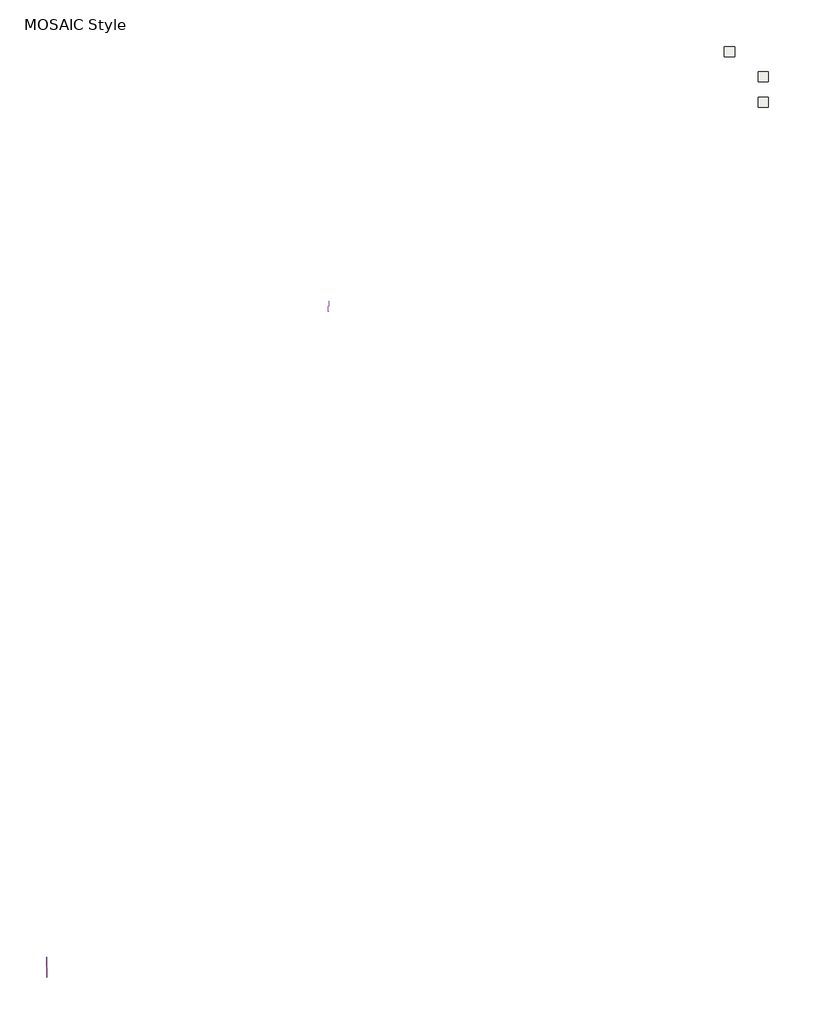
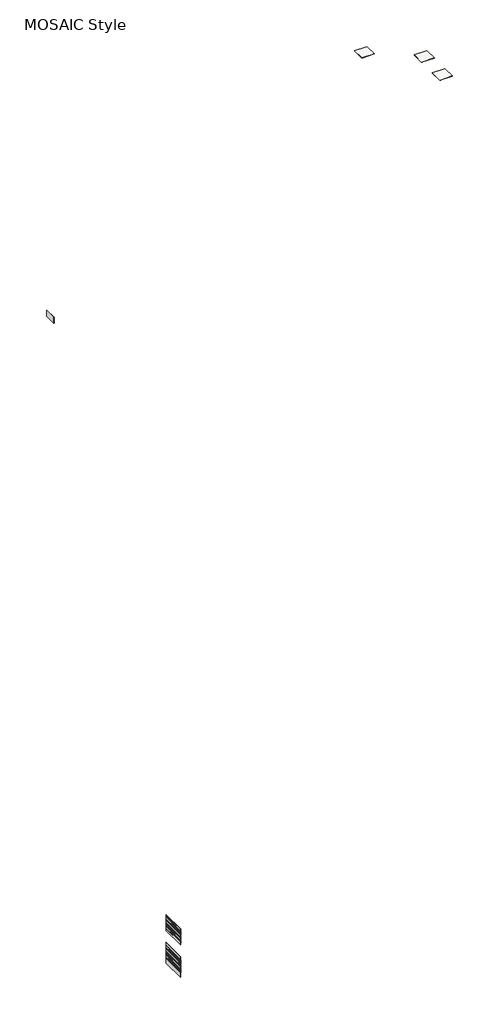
# One storey: 23 proxies, 3 slabs, 3 walls.
"""IFC4 building model written with IfcOpenShell, lengths in millimetres."""

from ifc_helpers import new_model, si_unit, frame, origin, place, context, project, spatial, polyline, outline, extrude, element, save

model = new_model("IFC4")

# Units and contexts
model_context = context("Model", 3, world=origin())
ifc_project = project(units=[si_unit("LENGTHUNIT", "METRE", prefix="MILLI")], contexts=[model_context])

# Site, building, storey
site = spatial("IfcSite", under=ifc_project)
building = spatial("IfcBuilding", under=site)
storey = spatial("IfcBuildingStorey", under=building, Name="MOSAIC Style", Elevation=15000.0)

# Proxies
placement = place(None, origin())
element("IfcBuildingElementProxy", 1, Name="Cesantoni_Cascata_30x6_Mist_Mate", ObjectType="Cesantoni_Cascata_30x6_Mist_Mate", at=placement, inside=storey, context=model_context, shape_type="SweptSolid", body=[
    extrude(outline(polyline([(18064.1233813, -41360.6781102), (18094.1233813, -41379.6781102), (18081.9750312, -41379.6781102), (18064.1233813, -41368.3720653), (18046.2717314, -41379.6781102), (18034.1233813, -41379.6781102), (18064.1233813, -41360.6781102)])), frame((0.0, -54356.7282789, 0.0), z_axis=(0.0, 1.0, 0.0), x_axis=(0.0, 0.0, 1.0)), (0.0, 0.0, 1.0), 1200.0),
])
element("IfcBuildingElementProxy", 2, Name="Cesantoni_Cascata_30x6_Mist_Mate", ObjectType="Cesantoni_Cascata_30x6_Mist_Mate", at=placement, inside=storey, context=model_context, shape_type="SweptSolid", body=[
    extrude(outline(polyline([(18004.1233813, -41360.6781102), (18034.1233813, -41379.6781102), (18021.9750312, -41379.6781102), (18004.1233813, -41368.3720653), (17986.2717314, -41379.6781102), (17974.1233813, -41379.6781102), (18004.1233813, -41360.6781102)])), frame((0.0, -54356.7282789, 0.0), z_axis=(0.0, 1.0, 0.0), x_axis=(0.0, 0.0, 1.0)), (0.0, 0.0, 1.0), 1200.0),
])
element("IfcBuildingElementProxy", 3, Name="Cesantoni_Cascata_30x6_Mist_Mate", ObjectType="Cesantoni_Cascata_30x6_Mist_Mate", at=placement, inside=storey, context=model_context, shape_type="SweptSolid", body=[
    extrude(outline(polyline([(17884.1233813, -41360.6781102), (17914.1233813, -41379.6781102), (17901.9750312, -41379.6781102), (17884.1233813, -41368.3720653), (17866.2717314, -41379.6781102), (17854.1233813, -41379.6781102), (17884.1233813, -41360.6781102)])), frame((0.0, -54356.7282789, 0.0), z_axis=(0.0, 1.0, 0.0), x_axis=(0.0, 0.0, 1.0)), (0.0, 0.0, 1.0), 1200.0),
])
element("IfcBuildingElementProxy", 4, Name="Cesantoni_Cascata_30x6_Mist_Mate", ObjectType="Cesantoni_Cascata_30x6_Mist_Mate", at=placement, inside=storey, context=model_context, shape_type="SweptSolid", body=[
    extrude(outline(polyline([(17944.1233813, -41360.6781102), (17974.1233813, -41379.6781102), (17961.9750312, -41379.6781102), (17944.1233813, -41368.3720653), (17926.2717314, -41379.6781102), (17914.1233813, -41379.6781102), (17944.1233813, -41360.6781102)])), frame((0.0, -54356.7282789, 0.0), z_axis=(0.0, 1.0, 0.0), x_axis=(0.0, 0.0, 1.0)), (0.0, 0.0, 1.0), 1200.0),
])
element("IfcBuildingElementProxy", 5, Name="Cesantoni_Cascata_30x6_Mist_Mate", ObjectType="Cesantoni_Cascata_30x6_Mist_Mate", at=placement, inside=storey, context=model_context, shape_type="SweptSolid", body=[
    extrude(outline(polyline([(17644.1233813, -41360.6781102), (17674.1233813, -41379.6781102), (17661.9750312, -41379.6781102), (17644.1233813, -41368.3720653), (17626.2717314, -41379.6781102), (17614.1233813, -41379.6781102), (17644.1233813, -41360.6781102)])), frame((0.0, -54356.7282789, 0.0), z_axis=(0.0, 1.0, 0.0), x_axis=(0.0, 0.0, 1.0)), (0.0, 0.0, 1.0), 1200.0),
])
element("IfcBuildingElementProxy", 6, Name="Cesantoni_Cascata_30x6_Mist_Mate", ObjectType="Cesantoni_Cascata_30x6_Mist_Mate", at=placement, inside=storey, context=model_context, shape_type="SweptSolid", body=[
    extrude(outline(polyline([(17704.1233813, -41360.6781102), (17734.1233813, -41379.6781102), (17721.9750312, -41379.6781102), (17704.1233813, -41368.3720653), (17686.2717314, -41379.6781102), (17674.1233813, -41379.6781102), (17704.1233813, -41360.6781102)])), frame((0.0, -54356.7282789, 0.0), z_axis=(0.0, 1.0, 0.0), x_axis=(0.0, 0.0, 1.0)), (0.0, 0.0, 1.0), 1200.0),
])
element("IfcBuildingElementProxy", 7, Name="Cesantoni_Cascata_30x6_Mist_Mate", ObjectType="Cesantoni_Cascata_30x6_Mist_Mate", at=placement, inside=storey, context=model_context, shape_type="SweptSolid", body=[
    extrude(outline(polyline([(17824.1233813, -41360.6781102), (17854.1233813, -41379.6781102), (17841.9750312, -41379.6781102), (17824.1233813, -41368.3720653), (17806.2717314, -41379.6781102), (17794.1233813, -41379.6781102), (17824.1233813, -41360.6781102)])), frame((0.0, -54356.7282789, 0.0), z_axis=(0.0, 1.0, 0.0), x_axis=(0.0, 0.0, 1.0)), (0.0, 0.0, 1.0), 1200.0),
])
element("IfcBuildingElementProxy", 8, Name="Cesantoni_Cascata_30x6_Mist_Mate", ObjectType="Cesantoni_Cascata_30x6_Mist_Mate", at=placement, inside=storey, context=model_context, shape_type="SweptSolid", body=[
    extrude(outline(polyline([(17764.1233813, -41360.6781102), (17794.1233813, -41379.6781102), (17781.9750312, -41379.6781102), (17764.1233813, -41368.3720653), (17746.2717314, -41379.6781102), (17734.1233813, -41379.6781102), (17764.1233813, -41360.6781102)])), frame((0.0, -54356.7282789, 0.0), z_axis=(0.0, 1.0, 0.0), x_axis=(0.0, 0.0, 1.0)), (0.0, 0.0, 1.0), 1200.0),
])
element("IfcBuildingElementProxy", 9, Name="Cesantoni_Cascata_30x6_Mist_Mate", ObjectType="Cesantoni_Cascata_30x6_Mist_Mate", at=placement, inside=storey, context=model_context, shape_type="SweptSolid", body=[
    extrude(outline(polyline([(17584.1233813, -41360.6781102), (17614.1233813, -41379.6781102), (17601.9750312, -41379.6781102), (17584.1233813, -41368.3720653), (17566.2717314, -41379.6781102), (17554.1233813, -41379.6781102), (17584.1233813, -41360.6781102)])), frame((0.0, -54356.7282789, 0.0), z_axis=(0.0, 1.0, 0.0), x_axis=(0.0, 0.0, 1.0)), (0.0, 0.0, 1.0), 1200.0),
])
element("IfcBuildingElementProxy", 10, Name="Cesantoni_Cascata_30x6_Mist_Mate", ObjectType="Cesantoni_Cascata_30x6_Mist_Mate", at=placement, inside=storey, context=model_context, shape_type="SweptSolid", body=[
    extrude(outline(polyline([(17524.1233813, -41360.6781102), (17554.1233813, -41379.6781102), (17541.9750312, -41379.6781102), (17524.1233813, -41368.3720653), (17506.2717314, -41379.6781102), (17494.1233813, -41379.6781102), (17524.1233813, -41360.6781102)])), frame((0.0, -54356.7282789, 0.0), z_axis=(0.0, 1.0, 0.0), x_axis=(0.0, 0.0, 1.0)), (0.0, 0.0, 1.0), 1200.0),
])
element("IfcBuildingElementProxy", 11, Name="Cesantoni_Cascata_30x6_Mist_Mate", ObjectType="Cesantoni_Cascata_30x6_Mist_Mate", at=placement, inside=storey, context=model_context, shape_type="SweptSolid", body=[
    extrude(outline(polyline([(17404.1233813, -41360.6781102), (17434.1233813, -41379.6781102), (17421.9750312, -41379.6781102), (17404.1233813, -41368.3720653), (17386.2717314, -41379.6781102), (17374.1233813, -41379.6781102), (17404.1233813, -41360.6781102)])), frame((0.0, -54356.7282789, 0.0), z_axis=(0.0, 1.0, 0.0), x_axis=(0.0, 0.0, 1.0)), (0.0, 0.0, 1.0), 1200.0),
])
element("IfcBuildingElementProxy", 12, Name="Cesantoni_Cascata_30x6_Mist_Mate", ObjectType="Cesantoni_Cascata_30x6_Mist_Mate", at=placement, inside=storey, context=model_context, shape_type="SweptSolid", body=[
    extrude(outline(polyline([(17464.1233813, -41360.6781102), (17494.1233813, -41379.6781102), (17481.9750312, -41379.6781102), (17464.1233813, -41368.3720653), (17446.2717314, -41379.6781102), (17434.1233813, -41379.6781102), (17464.1233813, -41360.6781102)])), frame((0.0, -54356.7282789, 0.0), z_axis=(0.0, 1.0, 0.0), x_axis=(0.0, 0.0, 1.0)), (0.0, 0.0, 1.0), 1200.0),
])
element("IfcBuildingElementProxy", 13, Name="Cesantoni_Cascata_30x6_Snow_Mate", ObjectType="Cesantoni_Cascata_30x6_Snow_Mate", at=placement, inside=storey, context=model_context, shape_type="SweptSolid", body=[
    extrude(outline(polyline([(16504.1233813, -41360.6781102), (16534.1233813, -41379.6781102), (16521.9750312, -41379.6781102), (16504.1233813, -41368.3720653), (16486.2717314, -41379.6781102), (16474.1233813, -41379.6781102), (16504.1233813, -41360.6781102)])), frame((0.0, -54356.7282789, 0.0), z_axis=(0.0, 1.0, 0.0), x_axis=(0.0, 0.0, 1.0)), (0.0, 0.0, 1.0), 1200.0),
])
element("IfcBuildingElementProxy", 14, Name="Cesantoni_Cascata_30x6_Snow_Mate", ObjectType="Cesantoni_Cascata_30x6_Snow_Mate", at=placement, inside=storey, context=model_context, shape_type="SweptSolid", body=[
    extrude(outline(polyline([(16384.1233813, -41360.6781102), (16414.1233813, -41379.6781102), (16401.9750312, -41379.6781102), (16384.1233813, -41368.3720653), (16366.2717314, -41379.6781102), (16354.1233813, -41379.6781102), (16384.1233813, -41360.6781102)])), frame((0.0, -54356.7282789, 0.0), z_axis=(0.0, 1.0, 0.0), x_axis=(0.0, 0.0, 1.0)), (0.0, 0.0, 1.0), 1200.0),
])
element("IfcBuildingElementProxy", 15, Name="Cesantoni_Cascata_30x6_Snow_Mate", ObjectType="Cesantoni_Cascata_30x6_Snow_Mate", at=placement, inside=storey, context=model_context, shape_type="SweptSolid", body=[
    extrude(outline(polyline([(16444.1233813, -41360.6781102), (16474.1233813, -41379.6781102), (16461.9750312, -41379.6781102), (16444.1233813, -41368.3720653), (16426.2717314, -41379.6781102), (16414.1233813, -41379.6781102), (16444.1233813, -41360.6781102)])), frame((0.0, -54356.7282789, 0.0), z_axis=(0.0, 1.0, 0.0), x_axis=(0.0, 0.0, 1.0)), (0.0, 0.0, 1.0), 1200.0),
])
element("IfcBuildingElementProxy", 16, Name="Cesantoni_Cascata_30x6_Snow_Mate", ObjectType="Cesantoni_Cascata_30x6_Snow_Mate", at=placement, inside=storey, context=model_context, shape_type="SweptSolid", body=[
    extrude(outline(polyline([(16144.1233813, -41360.6781102), (16174.1233813, -41379.6781102), (16161.9750312, -41379.6781102), (16144.1233813, -41368.3720653), (16126.2717314, -41379.6781102), (16114.1233813, -41379.6781102), (16144.1233813, -41360.6781102)])), frame((0.0, -54356.7282789, 0.0), z_axis=(0.0, 1.0, 0.0), x_axis=(0.0, 0.0, 1.0)), (0.0, 0.0, 1.0), 1200.0),
])
element("IfcBuildingElementProxy", 17, Name="Cesantoni_Cascata_30x6_Snow_Mate", ObjectType="Cesantoni_Cascata_30x6_Snow_Mate", at=placement, inside=storey, context=model_context, shape_type="SweptSolid", body=[
    extrude(outline(polyline([(16204.1233813, -41360.6781102), (16234.1233813, -41379.6781102), (16221.9750312, -41379.6781102), (16204.1233813, -41368.3720653), (16186.2717314, -41379.6781102), (16174.1233813, -41379.6781102), (16204.1233813, -41360.6781102)])), frame((0.0, -54356.7282789, 0.0), z_axis=(0.0, 1.0, 0.0), x_axis=(0.0, 0.0, 1.0)), (0.0, 0.0, 1.0), 1200.0),
])
element("IfcBuildingElementProxy", 18, Name="Cesantoni_Cascata_30x6_Snow_Mate", ObjectType="Cesantoni_Cascata_30x6_Snow_Mate", at=placement, inside=storey, context=model_context, shape_type="SweptSolid", body=[
    extrude(outline(polyline([(16324.1233813, -41360.6781102), (16354.1233813, -41379.6781102), (16341.9750312, -41379.6781102), (16324.1233813, -41368.3720653), (16306.2717314, -41379.6781102), (16294.1233813, -41379.6781102), (16324.1233813, -41360.6781102)])), frame((0.0, -54356.7282789, 0.0), z_axis=(0.0, 1.0, 0.0), x_axis=(0.0, 0.0, 1.0)), (0.0, 0.0, 1.0), 1200.0),
])
element("IfcBuildingElementProxy", 19, Name="Cesantoni_Cascata_30x6_Snow_Mate", ObjectType="Cesantoni_Cascata_30x6_Snow_Mate", at=placement, inside=storey, context=model_context, shape_type="SweptSolid", body=[
    extrude(outline(polyline([(16264.1233813, -41360.6781102), (16294.1233813, -41379.6781102), (16281.9750312, -41379.6781102), (16264.1233813, -41368.3720653), (16246.2717314, -41379.6781102), (16234.1233813, -41379.6781102), (16264.1233813, -41360.6781102)])), frame((0.0, -54356.7282789, 0.0), z_axis=(0.0, 1.0, 0.0), x_axis=(0.0, 0.0, 1.0)), (0.0, 0.0, 1.0), 1200.0),
])
element("IfcBuildingElementProxy", 20, Name="Cesantoni_Cascata_30x6_Snow_Mate", ObjectType="Cesantoni_Cascata_30x6_Snow_Mate", at=placement, inside=storey, context=model_context, shape_type="SweptSolid", body=[
    extrude(outline(polyline([(16084.1233813, -41360.6781102), (16114.1233813, -41379.6781102), (16101.9750312, -41379.6781102), (16084.1233813, -41368.3720653), (16066.2717314, -41379.6781102), (16054.1233813, -41379.6781102), (16084.1233813, -41360.6781102)])), frame((0.0, -54356.7282789, 0.0), z_axis=(0.0, 1.0, 0.0), x_axis=(0.0, 0.0, 1.0)), (0.0, 0.0, 1.0), 1200.0),
])
element("IfcBuildingElementProxy", 21, Name="Cesantoni_Cascata_30x6_Snow_Mate", ObjectType="Cesantoni_Cascata_30x6_Snow_Mate", at=placement, inside=storey, context=model_context, shape_type="SweptSolid", body=[
    extrude(outline(polyline([(16024.1233813, -41360.6781102), (16054.1233813, -41379.6781102), (16041.9750312, -41379.6781102), (16024.1233813, -41368.3720653), (16006.2717314, -41379.6781102), (15994.1233813, -41379.6781102), (16024.1233813, -41360.6781102)])), frame((0.0, -54356.7282789, 0.0), z_axis=(0.0, 1.0, 0.0), x_axis=(0.0, 0.0, 1.0)), (0.0, 0.0, 1.0), 1200.0),
])
element("IfcBuildingElementProxy", 22, Name="Cesantoni_Cascata_30x6_Snow_Mate", ObjectType="Cesantoni_Cascata_30x6_Snow_Mate", at=placement, inside=storey, context=model_context, shape_type="SweptSolid", body=[
    extrude(outline(polyline([(15904.1233813, -41360.6781102), (15934.1233813, -41379.6781102), (15921.9750312, -41379.6781102), (15904.1233813, -41368.3720653), (15886.2717314, -41379.6781102), (15874.1233813, -41379.6781102), (15904.1233813, -41360.6781102)])), frame((0.0, -54356.7282789, 0.0), z_axis=(0.0, 1.0, 0.0), x_axis=(0.0, 0.0, 1.0)), (0.0, 0.0, 1.0), 1200.0),
])
element("IfcBuildingElementProxy", 23, Name="Cesantoni_Cascata_30x6_Snow_Mate", ObjectType="Cesantoni_Cascata_30x6_Snow_Mate", at=placement, inside=storey, context=model_context, shape_type="SweptSolid", body=[
    extrude(outline(polyline([(15964.1233813, -41360.6781102), (15994.1233813, -41379.6781102), (15981.9750312, -41379.6781102), (15964.1233813, -41368.3720653), (15946.2717314, -41379.6781102), (15934.1233813, -41379.6781102), (15964.1233813, -41360.6781102)])), frame((0.0, -54356.7282789, 0.0), z_axis=(0.0, 1.0, 0.0), x_axis=(0.0, 0.0, 1.0)), (0.0, 0.0, 1.0), 1200.0),
])

# Slabs
element("IfcSlab", 24, ObjectType="Cesantoni_Porto_Alegre_19.8x19.8_Porto_Alegre_Mate", at=placement, inside=storey, context=model_context, shape_type="SweptSolid", body=[
    extrude(outline(polyline([(-630.1781102, 784.4826442), (-630.1781102, 184.4826442), (-1230.1781102, 184.4826442), (-1230.1781102, 784.4826442), (-630.1781102, 784.4826442)])), frame((0.0, 0.0, 14989.0), z_axis=(0.0, 0.0, 1.0), x_axis=(1.0, 0.0, 0.0)), (0.0, 0.0, 1.0), 11.0),
])
element("IfcSlab", 25, ObjectType="Cesantoni_Porto_Santo_17.8x17.8_RECT_Beige_Mate", at=placement, inside=storey, context=model_context, shape_type="SweptSolid", body=[
    extrude(outline(polyline([(1369.8218898, -715.5173558), (1369.8218898, -1315.5173558), (769.8218898, -1315.5173558), (769.8218898, -715.5173558), (1369.8218898, -715.5173558)])), frame((0.0, 0.0, 14991.0), z_axis=(0.0, 0.0, 1.0), x_axis=(1.0, 0.0, 0.0)), (0.0, 0.0, 1.0), 9.0),
])
element("IfcSlab", 26, ObjectType="Cesantoni_Porto_Santo_17.8x17.8_RECT_Gris_Mate", at=placement, inside=storey, context=model_context, shape_type="SweptSolid", body=[
    extrude(outline(polyline([(1369.8218898, -2215.5173558), (1369.8218898, -2815.5173558), (769.8218898, -2815.5173558), (769.8218898, -2215.5173558), (1369.8218898, -2215.5173558)])), frame((0.0, 0.0, 14991.0), z_axis=(0.0, 0.0, 1.0), x_axis=(1.0, 0.0, 0.0)), (0.0, 0.0, 1.0), 9.0),
])

# Walls
element("IfcWall", 27, ObjectType="Cesantoni_Burconi_30x60_RECT_Burconi_Mate", at=placement, inside=storey, context=model_context, shape_type="SweptSolid", body=[
    extrude(outline(polyline([(-24674.55447, -14310.0172176), (-24674.55447, -14912.0172176), (-24684.55447, -14912.0172176), (-24684.55447, -14310.0172176), (-24674.55447, -14310.0172176)])), frame((0.0, 0.0, 18948.0), z_axis=(0.0, 0.0, 1.0), x_axis=(1.0, 0.0, 0.0)), (0.0, 0.0, 1.0), 302.0),
])
element("IfcWall", 28, ObjectType="Muro básico:muro", at=placement, inside=storey, context=model_context, shape_type="SweptSolid", body=[
    extrude(outline(polyline([(-41379.6781102, -53156.7282789), (-41379.6781102, -54356.7282789), (-41380.6781102, -54356.7282789), (-41380.6781102, -53156.7282789), (-41379.6781102, -53156.7282789)])), frame((0.0, 0.0, 17289.1233813), z_axis=(0.0, 0.0, 1.0), x_axis=(1.0, 0.0, 0.0)), (0.0, 0.0, 1.0), 805.0),
])
element("IfcWall", 29, ObjectType="Muro básico:muro", at=placement, inside=storey, context=model_context, shape_type="SweptSolid", body=[
    extrude(outline(polyline([(-41379.6781102, -53156.7282789), (-41379.6781102, -54356.7282789), (-41380.6781102, -54356.7282789), (-41380.6781102, -53156.7282789), (-41379.6781102, -53156.7282789)])), frame((0.0, 0.0, 15643.7209032), z_axis=(0.0, 0.0, 1.0), x_axis=(1.0, 0.0, 0.0)), (0.0, 0.0, 1.0), 1050.4024782),
])

save(model, "model.ifc")
